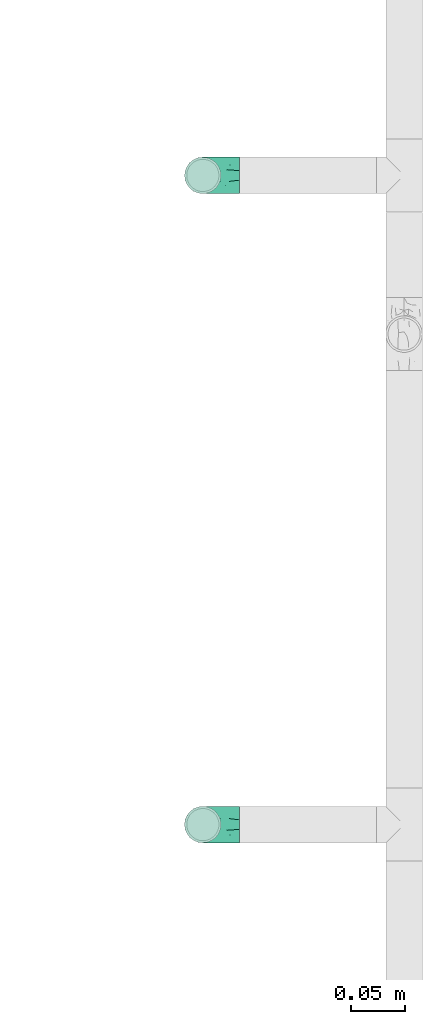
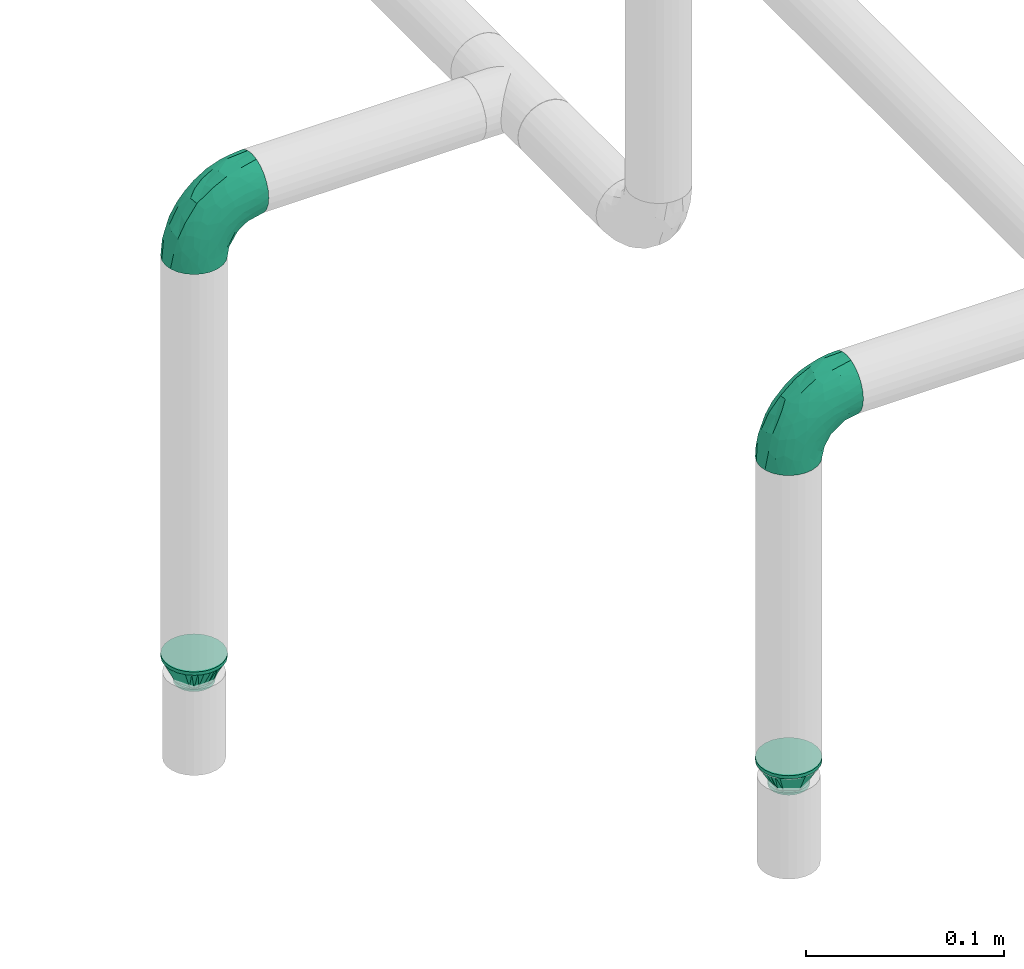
# One storey, part 54 of 157: 4 flow fittings.
"""IFC2X3 building model written with IfcOpenShell, lengths in millimetres."""

from ifc_helpers import new_model, entity, si_unit, converted_unit, derived_unit, direction, frame, origin_with_axes, place, context, subcontext, project, spatial, open_shell, surface_model, source, transform, mapped, type_object, element, save


model = new_model("IFC2X3")

# Units and contexts
model_context = context("Model", 3, precision=0.01, world=frame((0.0, 4.29681676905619e-09, 0.0)), true_north=direction((4.01073788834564e-13, 1.0)))
plan_context = context("Plan", 3, precision=0.01, world=frame((0.0, 4.29681676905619e-09, 0.0)), true_north=direction((4.01073788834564e-13, 1.0)))
body_context = subcontext(model_context, "Body", "Model", "MODEL_VIEW")
ifc_project = project(units=[converted_unit("PLANEANGLEUNIT", "DEGREE", entity("IfcPositiveLengthMeasure", 0.0174532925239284), si_unit("PLANEANGLEUNIT", "RADIAN"), dimensions=[0, 0, 0, 0, 0, 0, 0]), si_unit("AREAUNIT", "SQUARE_METRE"), si_unit("LENGTHUNIT", "METRE", prefix="MILLI"), si_unit("MASSUNIT", "GRAM", prefix="KILO"), si_unit("POWERUNIT", "WATT"), si_unit("PRESSUREUNIT", "PASCAL"), si_unit("FORCEUNIT", "NEWTON", prefix="KILO"), si_unit("ELECTRICCURRENTUNIT", "AMPERE"), si_unit("THERMODYNAMICTEMPERATUREUNIT", "DEGREE_CELSIUS"), si_unit("TIMEUNIT", "SECOND"), si_unit("VOLUMEUNIT", "CUBIC_METRE"), derived_unit("LINEARVELOCITYUNIT", [(si_unit("LENGTHUNIT", "METRE"), 1), (si_unit("TIMEUNIT", "SECOND"), -1)]), derived_unit("VOLUMETRICFLOWRATEUNIT", [(si_unit("VOLUMEUNIT", "CUBIC_METRE"), 1), (si_unit("TIMEUNIT", "SECOND"), -1)]), derived_unit("THERMALTRANSMITTANCEUNIT", [(si_unit("POWERUNIT", "WATT"), 1), (si_unit("THERMODYNAMICTEMPERATUREUNIT", "KELVIN"), -1), (si_unit("AREAUNIT", "SQUARE_METRE"), -1)])], contexts=[model_context, plan_context])

# Site, building, storey
site_placement = place(None, frame((0.0, -4.29681676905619e-09, 0.0), z_axis=(0.0, 0.0, 1.0), x_axis=(1.0, 0.0, 0.0)))
site = spatial("IfcSite", under=ifc_project, at=site_placement, CompositionType="ELEMENT")
building_placement = place(site_placement, frame((0.0, 4.29681676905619e-09, 0.0), z_axis=(0.0, 0.0, 1.0), x_axis=(1.0, 0.0, 0.0)))
building = spatial("IfcBuilding", under=site, at=building_placement, Name="mc-building", CompositionType="ELEMENT")
storey_placement = place(building_placement, frame((0.0, 0.0, 204000.0), z_axis=(0.0, 0.0, 1.0), x_axis=(1.0, 0.0, 0.0)))
storey = spatial("IfcBuildingStorey", under=building, at=storey_placement, Name="Nivå D", CompositionType="ELEMENT", Elevation=204000.0)

# Flow fittings
pipe_fitting_type_1 = type_object("IfcPipeFittingType", Name="magi_pipe_fe_reducer_centric_short_NOR", PredefinedType="TRANSITION")
shared_shape_1 = source(origin_with_axes(), body_context, "Body", "SurfaceModel", [
    surface_model("IfcShellBasedSurfaceModel", [(14.4, 5.35, -9.26647), (14.4, 0.0, -10.7), (14.4, 2.76936, -10.33541), (14.4, 10.33541, -2.76936), (14.4, 7.56604, -7.56604), (14.4, -10.33541, -2.76936), (14.4, 9.26647, -5.35), (14.4, 0.0, 10.7), (14.4, -5.35, -9.26647), (14.4, -2.76936, -10.33541), (14.4, -7.56604, -7.56604), (14.4, -9.26647, -5.35), (14.4, 10.7, 0.0), (14.4, 10.33541, 2.76936), (14.4, 9.26647, 5.35), (14.4, 7.56604, 7.56604), (14.4, 2.76936, 10.33541), (14.4, 5.35, 9.26647), (14.4, -10.33541, 2.76936), (14.4, -7.56604, 7.56604), (14.4, -9.26647, 5.35), (14.4, -10.7, 0.0), (14.4, -2.76936, 10.33541), (14.4, -5.35, 9.26647), (12.4, 2.76936, 10.33541), (12.4, -10.33541, -2.76936), (12.4, 0.0, 10.7), (12.4, 5.35, 9.26647), (12.4, 7.56604, 7.56604), (12.4, 9.26647, 5.35), (12.4, 10.33541, 2.76936), (12.4, -10.33541, 2.76936), (12.4, -2.76936, 10.33541), (12.4, -7.56604, 7.56604), (12.4, -5.35, 9.26647), (12.4, -9.26647, 5.35), (12.4, -10.7, 0.0), (12.4, 10.33541, -2.76936), (12.4, 5.35, -9.26647), (12.4, 9.26647, -5.35), (12.4, 7.56604, -7.56604), (12.4, 2.76936, -10.33541), (12.4, -9.26647, -5.35), (12.4, -5.35, -9.26647), (12.4, -7.56604, -7.56604), (12.4, 0.0, -10.7), (12.4, -2.76936, -10.33541), (12.4, 10.7, 0.0), (-2.0, 11.9501, 11.9501), (-2.0, 0.0, 16.9), (-2.0, 4.37404, 16.32415), (-2.0, 8.45, 14.63583), (-2.0, 14.63583, 8.45), (-2.0, 16.32415, 4.37404), (-2.0, -16.32415, 4.37404), (-2.0, -8.45, 14.63583), (-2.0, -14.63583, 8.45), (-2.0, -11.9501, 11.9501), (-2.0, -4.37404, 16.32415), (-2.0, -16.32415, -4.37404), (-2.0, -16.9, 0.0), (-2.0, -8.45, -14.63583), (-2.0, 16.32415, -4.37404), (-2.0, 11.9501, -11.9501), (-2.0, 14.63583, -8.45), (-2.0, 8.45, -14.63583), (-2.0, 4.37404, -16.32415), (-2.0, 0.0, -16.9), (-2.0, -11.9501, -11.9501), (-2.0, -14.63583, -8.45), (-2.0, -4.37404, -16.32415), (-2.0, 16.9, 0.0), (0.0, 4.37404, -16.32415), (0.0, 8.45, -14.63583), (0.0, 11.9501, -11.9501), (0.0, 0.0, -16.9), (0.0, 16.32415, -4.37404), (0.0, 16.32415, 4.37404), (0.0, 14.63583, -8.45), (0.0, -8.45, -14.63583), (0.0, -4.37404, -16.32415), (0.0, -11.9501, -11.9501), (0.0, -16.32415, -4.37404), (0.0, -14.63583, -8.45), (0.0, -16.32415, 4.37404), (0.0, 16.9, 0.0), (0.0, 14.63583, 8.45), (0.0, 11.9501, 11.9501), (0.0, 4.37404, 16.32415), (0.0, 8.45, 14.63583), (0.0, 0.0, 16.9), (0.0, -14.63583, 8.45), (0.0, -16.9, 0.0), (0.0, -8.45, 14.63583), (0.0, -11.9501, 11.9501), (0.0, -4.37404, 16.32415), (12.4, 9.3625, -2.31662), (0.0, 14.42505, -5.97505), (0.0, 15.66253, -2.98753), (12.4, -6.6875, -6.94985), (0.0, -13.18758, -8.96258), (0.0, 2.98753, -15.66253), (12.4, 0.0, -9.26647), (12.4, 6.6875, -6.94985), (0.0, 8.96258, -13.18758), (12.4, -9.3625, -2.31662), (0.0, -15.66253, -2.98753), (0.0, -14.42505, -5.97505), (0.0, 5.97505, -14.42505), (0.0, -2.98753, -15.66253), (0.0, -8.96258, -13.18758), (0.0, 13.18758, -8.96258), (12.4, 8.025, -4.63324), (12.4, -2.675, -9.26647), (12.4, 2.675, -9.26647), (0.0, -5.97505, -14.42505), (12.4, -8.025, -4.63324), (12.4, -9.3625, 2.31662), (0.0, -14.42505, 5.97505), (0.0, -15.66253, 2.98753), (12.4, 6.6875, 6.94985), (0.0, 13.18758, 8.96258), (0.0, -2.98753, 15.66253), (12.4, 0.0, 9.26647), (12.4, -6.6875, 6.94985), (0.0, -8.96258, 13.18758), (12.4, 9.3625, 2.31662), (0.0, 15.66253, 2.98753), (0.0, 14.42505, 5.97505), (0.0, -5.97505, 14.42505), (0.0, 2.98753, 15.66253), (0.0, 8.96258, 13.18758), (0.0, -13.18758, 8.96258), (12.4, -8.025, 4.63324), (12.4, 2.675, 9.26647), (12.4, -2.675, 9.26647), (0.0, 5.97505, 14.42505), (12.4, 8.025, 4.63324)], [open_shell([[[0, 1, 2]], [[3, 0, 4]], [[5, 0, 3]], [[3, 4, 6]], [[7, 5, 3]], [[1, 8, 9]], [[1, 0, 8]], [[10, 5, 11]], [[5, 10, 8]], [[0, 5, 8]], [[3, 12, 13]], [[13, 14, 15]], [[13, 15, 16]], [[7, 3, 16]], [[16, 15, 17]], [[7, 18, 5]], [[18, 19, 20]], [[21, 5, 18]], [[19, 22, 23]], [[22, 19, 18]], [[7, 22, 18]], [[13, 16, 3]], [[24, 25, 26]], [[27, 25, 24]], [[28, 29, 30]], [[28, 25, 27]], [[31, 26, 25]], [[32, 33, 34]], [[33, 32, 31]], [[33, 31, 35]], [[32, 26, 31]], [[31, 25, 36]], [[30, 37, 28]], [[25, 28, 37]], [[38, 37, 39]], [[37, 38, 25]], [[38, 39, 40]], [[41, 25, 38]], [[42, 43, 44]], [[43, 42, 25]], [[43, 45, 46]], [[43, 25, 41]], [[41, 45, 43]], [[37, 30, 47]], [[25, 5, 36]], [[42, 11, 25]], [[8, 44, 43]], [[42, 44, 10]], [[9, 43, 46]], [[25, 11, 5]], [[5, 21, 36]], [[9, 8, 43]], [[10, 44, 8]], [[10, 11, 42]], [[1, 9, 46]], [[46, 45, 1]], [[41, 2, 45]], [[38, 0, 41]], [[6, 40, 39]], [[38, 40, 4]], [[3, 39, 37]], [[38, 4, 0]], [[0, 2, 41]], [[12, 3, 37]], [[6, 39, 3]], [[6, 4, 40]], [[47, 12, 37]], [[45, 2, 1]], [[30, 13, 47]], [[29, 14, 30]], [[17, 28, 27]], [[29, 28, 15]], [[16, 27, 24]], [[30, 14, 13]], [[13, 12, 47]], [[16, 17, 27]], [[15, 28, 17]], [[15, 14, 29]], [[7, 16, 24]], [[24, 26, 7]], [[32, 22, 26]], [[34, 23, 32]], [[20, 33, 35]], [[34, 33, 19]], [[18, 35, 31]], [[34, 19, 23]], [[23, 22, 32]], [[21, 18, 31]], [[20, 35, 18]], [[20, 19, 33]], [[36, 21, 31]], [[26, 22, 7]], [[48, 49, 50]], [[48, 50, 51]], [[48, 52, 53]], [[48, 53, 49]], [[49, 53, 54]], [[55, 56, 57]], [[55, 58, 49]], [[56, 55, 49]], [[49, 54, 56]], [[54, 59, 60]], [[54, 53, 61]], [[53, 62, 63]], [[63, 62, 64]], [[63, 65, 66]], [[61, 53, 63]], [[67, 63, 66]], [[59, 68, 69]], [[68, 59, 61]], [[61, 67, 70]], [[59, 54, 61]], [[63, 67, 61]], [[53, 71, 62]], [[72, 73, 74]], [[75, 72, 74]], [[74, 76, 77]], [[76, 74, 78]], [[74, 77, 79]], [[75, 79, 80]], [[75, 74, 79]], [[81, 82, 83]], [[82, 81, 79]], [[79, 84, 82]], [[77, 76, 85]], [[77, 86, 87]], [[77, 87, 88]], [[88, 84, 79]], [[88, 87, 89]], [[84, 88, 90]], [[90, 91, 84]], [[92, 82, 84]], [[91, 93, 94]], [[91, 90, 93]], [[93, 90, 95]], [[79, 77, 88]], [[59, 82, 60]], [[69, 83, 59]], [[79, 68, 61]], [[69, 68, 81]], [[80, 61, 70]], [[59, 83, 82]], [[82, 92, 60]], [[80, 79, 61]], [[81, 68, 79]], [[81, 83, 69]], [[75, 80, 70]], [[70, 67, 75]], [[66, 72, 67]], [[65, 73, 66]], [[78, 63, 64]], [[65, 63, 74]], [[76, 64, 62]], [[65, 74, 73]], [[73, 72, 66]], [[85, 76, 62]], [[78, 64, 76]], [[78, 74, 63]], [[71, 85, 62]], [[67, 72, 75]], [[53, 77, 71]], [[52, 86, 53]], [[89, 48, 51]], [[52, 48, 87]], [[88, 51, 50]], [[53, 86, 77]], [[77, 85, 71]], [[88, 89, 51]], [[87, 48, 89]], [[87, 86, 52]], [[90, 88, 50]], [[50, 49, 90]], [[58, 95, 49]], [[55, 93, 58]], [[91, 57, 56]], [[55, 57, 94]], [[84, 56, 54]], [[55, 94, 93]], [[93, 95, 58]], [[92, 84, 54]], [[91, 56, 84]], [[91, 94, 57]], [[60, 92, 54]], [[49, 95, 90]], [[27, 34, 47]], [[47, 34, 43]], [[43, 38, 47]], [[43, 34, 36]], [[90, 87, 94]], [[92, 94, 87]], [[87, 74, 92]], [[75, 92, 74]], [[81, 92, 75]], [[74, 87, 85]], [[96, 97, 98]], [[81, 99, 100]], [[101, 102, 75]], [[98, 85, 47]], [[74, 103, 104]], [[104, 103, 38]], [[105, 106, 107]], [[38, 108, 104]], [[102, 109, 75]], [[110, 99, 81]], [[47, 96, 98]], [[103, 111, 112]], [[109, 102, 113]], [[36, 92, 106]], [[102, 101, 114]], [[110, 115, 43]], [[96, 112, 97]], [[107, 116, 105]], [[36, 106, 105]], [[113, 115, 109]], [[43, 115, 113]], [[116, 107, 100]], [[108, 38, 114]], [[111, 103, 74]], [[111, 97, 112]], [[99, 110, 43]], [[116, 100, 99]], [[101, 108, 114]], [[117, 118, 119]], [[87, 120, 121]], [[122, 123, 90]], [[119, 92, 36]], [[94, 124, 125]], [[125, 124, 34]], [[126, 127, 128]], [[34, 129, 125]], [[123, 130, 90]], [[131, 120, 87]], [[36, 117, 119]], [[124, 132, 133]], [[130, 123, 134]], [[47, 85, 127]], [[123, 122, 135]], [[131, 136, 27]], [[117, 133, 118]], [[128, 137, 126]], [[47, 127, 126]], [[134, 136, 130]], [[27, 136, 134]], [[137, 128, 121]], [[129, 34, 135]], [[132, 124, 94]], [[132, 118, 133]], [[120, 131, 27]], [[137, 121, 120]], [[122, 129, 135]]])]),
])
flow_fitting_1_placement = place(storey_placement, frame((518500.0, 413000.0, 2709.35200000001), z_axis=(1.0, 0.0, 0.0), x_axis=(0.0, 0.0, -1.0)))
element("IfcFlowFitting", 1, at=flow_fitting_1_placement, inside=storey, type_object=pipe_fitting_type_1, Name="magi_pipe_fe_reducer_centric_short_NOR", context=body_context, shape_type="MappedRepresentation", body=[
    mapped(shared_shape_1, transform((0.0, 0.0, 0.0), scale=1.0)),
])
pipe_fitting_type_2 = type_object("IfcPipeFittingType", Name="magi_pipe_fe_elbow_short_001", PredefinedType="BEND")
shared_shape_2 = source(origin_with_axes(), body_context, "Body", "SurfaceModel", [
    surface_model("IfcShellBasedSurfaceModel", [(-33.8, 8.45, -14.63583), (-33.8, 4.37404, -16.32415), (-33.8, 11.9501, -11.9501), (-33.8, -11.9501, -11.9501), (-33.8, -14.63583, -8.45), (-33.8, -8.45, -14.63583), (-33.8, 0.0, -16.9), (-33.8, -4.37404, -16.32415), (-33.8, -4.37404, 16.32415), (-33.8, 0.0, 16.9), (-33.8, -8.45, 14.63583), (-33.8, 16.32415, -4.37404), (-33.8, 14.63583, -8.45), (-33.8, -16.32415, -4.37404), (-33.8, -16.9, 0.0), (-33.8, -16.32415, 4.37404), (-33.8, 11.9501, 11.9501), (-33.8, 14.63583, 8.45), (-33.8, 16.32415, 4.37404), (-33.8, 4.37404, 16.32415), (-33.8, 8.45, 14.63583), (-33.8, -14.63583, 8.45), (-33.8, -11.9501, 11.9501), (-33.8, 16.9, 0.0), (-11.9501, 33.8, -11.9501), (0.0, 33.8, -16.9), (-4.37404, 33.8, -16.32415), (-8.45, 33.8, -14.63583), (-14.63583, 33.8, -8.45), (-16.32415, 33.8, -4.37404), (14.63583, 33.8, -8.45), (8.45, 33.8, 14.63583), (16.32415, 33.8, -4.37404), (8.45, 33.8, -14.63583), (11.9501, 33.8, -11.9501), (4.37404, 33.8, -16.32415), (16.32415, 33.8, 4.37404), (16.9, 33.8, 0.0), (-11.9501, 33.8, 11.9501), (-16.32415, 33.8, 4.37404), (-14.63583, 33.8, 8.45), (-8.45, 33.8, 14.63583), (-4.37404, 33.8, 16.32415), (11.9501, 33.8, 11.9501), (14.63583, 33.8, 8.45), (0.0, 33.8, 16.9), (4.37404, 33.8, 16.32415), (-16.9, 33.8, 0.0), (-24.79389, -13.12945, 9.48721), (-22.19287, -9.75018, 12.59315), (-24.09897, -14.97035, 0.0), (-14.93934, -10.76256, 8.5297), (-22.46095, -14.75051, 5.27077), (14.75051, 22.46094, 5.27077), (11.9251, 13.23888, 4.33236), (13.04069, 14.39795, 0.0), (7.71387, 13.68847, 11.55891), (9.75018, 22.19287, 12.59315), (4.10169, 13.0571, 14.04018), (-24.84007, -6.39063, 15.2048), (-25.81779, -2.23879, 16.61097), (-23.66549, 2.59054, 16.87119), (-26.50418, 14.06512, 11.08152), (-24.21253, 17.66365, 7.72657), (-29.58514, 15.86957, 7.00283), (-6.17382, -7.5455, 0.0), (-13.23888, -11.9251, 4.33236), (-14.39795, -13.04069, 0.0), (-17.81434, 18.87373, 11.97104), (-6.30846, 29.15138, 15.82987), (-2.31622, 25.28002, 16.85849), (-29.23923, 10.23435, 13.77053), (-1.45439, -2.85688, 7.61475), (-0.28326, 0.34872, 10.09509), (-5.74484, -4.04709, 10.4122), (-4.41137, 11.31918, 16.59407), (-8.39727, 3.10034, 15.7812), (-1.72649, 9.1306, 15.53089), (-17.39909, 24.75344, 7.64977), (-26.19233, 20.0512, 0.0), (-28.14518, 17.29657, 4.25857), (-26.05147, 6.6281, 15.96447), (-5.87354, 16.61944, 16.86968), (-12.51807, 12.51807, 16.48937), (-10.06312, 7.38516, 16.81295), (-3.01882, 3.01882, 13.81718), (-13.0571, -4.10169, 14.04018), (-16.82553, -0.15166, 16.38038), (10.76256, 14.93934, 8.5297), (13.12945, 24.79389, 9.48721), (6.39063, 24.84007, 15.2048), (2.23879, 25.81779, 16.61097), (-13.68847, -7.71387, 11.55891), (14.97035, 24.09897, 0.0), (-7.30894, 22.89991, 16.09489), (-10.67958, 26.17414, 14.008), (-12.78295, 18.26924, 15.06066), (-13.88562, 22.45231, 12.93244), (-18.04944, 15.16501, 14.04434), (-23.11658, 20.08178, 4.02986), (-21.84989, 21.84989, 0.0), (-18.55817, 25.48277, 3.93065), (-13.95142, 26.94732, 11.03289), (-18.57098, 7.23906, 16.59756), (-16.58335, 4.14122, 16.89279), (-17.96666, 11.46709, 15.63151), (-9.84453, 17.54304, 16.18938), (0.15166, 16.82553, 16.38038), (-23.27207, 11.47201, 14.23154), (3.84842, 5.86994, 10.70473), (-8.0212, -7.54413, 7.93275), (1.00345, -2.19508, 4.57414), (5.13203, 3.01004, 5.90201), (5.24161, 1.7543, 2.53265), (8.70457, 7.04947, 3.99182), (-20.0512, 26.19233, 0.0), (8.4852, 8.76699, 7.09296), (-4.55488, -6.72064, 4.90681), (2.05031, -2.05031, 0.0), (7.5455, 6.17382, 0.0), (-26.75399, 2.1369, -16.845), (-14.61995, 24.73803, -11.27736), (-28.45274, -13.45335, -9.81895), (-26.00469, 6.63555, -15.96645), (-23.06726, 20.04573, -4.26202), (-13.80647, -4.26506, -14.17873), (-14.67501, -0.21081, -16.07388), (-6.7902, -0.2828, -13.8478), (-24.53586, 11.08096, -14.13417), (-26.72048, 14.00837, -11.05776), (10.0967, 24.44989, -12.75976), (5.83237, 21.40218, -15.03047), (6.66249, 28.54238, -15.38093), (-20.38182, 15.48705, -12.74596), (12.53268, 21.23441, -9.15363), (12.54494, 15.67504, -5.54878), (9.7522, 12.89279, -8.66343), (-15.65186, 19.64213, -13.01327), (-12.03528, 20.66498, -14.67665), (-15.61907, 15.61906, -14.83879), (-25.56551, -15.26206, 0.0), (-24.65452, -15.12934, -5.50955), (13.45335, 28.45274, -9.81895), (15.12934, 24.65452, -5.50955), (-7.35442, -8.31014, -5.65563), (-15.67504, -12.54494, -5.54878), (-24.44989, -10.0967, -12.75976), (0.16522, 0.41303, -9.71728), (-5.70658, -5.33066, -8.89288), (-5.13869, -2.37198, -11.53565), (-21.23441, -12.53268, -9.15363), (0.71146, 7.93863, -14.09382), (0.21081, 14.67501, -16.07388), (3.49291, 14.42772, -14.76381), (-24.89911, -2.13088, -16.591), (-28.54238, -6.66249, -15.38093), (-18.44386, -7.71663, -13.26957), (2.13088, 24.89911, -16.591), (-28.64342, 17.44413, -2.89318), (1.70017, -1.28722, -5.09504), (-16.57067, 26.81947, -7.36596), (-17.69055, 27.4263, -3.76405), (-12.89279, -9.7522, -8.66343), (-5.96611, 5.96611, -15.95814), (-20.53709, 20.09345, -8.28985), (-2.1369, 26.75399, -16.845), (-6.89872, 24.58781, -16.02578), (-10.60739, 26.53157, -13.98044), (-21.40218, -5.83237, -15.03047), (2.93192, 5.89627, -11.55917), (6.89393, 12.61842, -11.82233), (5.58056, 5.95325, -8.79455), (-3.99512, 18.61798, -16.89635), (8.31014, 7.35442, -5.65563), (-9.1383, 9.86148, -16.89041), (-9.99983, 16.02119, -16.39699), (-16.68576, 9.78031, -16.34199), (-27.01915, 16.61158, -7.12979), (15.26206, 25.56551, 0.0), (-18.61798, 3.99512, -16.89635), (-19.37495, 27.82495, 0.0), (-12.61842, -6.89393, -11.82233), (-18.84705, 19.14018, -10.96545)], [open_shell([[[0, 1, 2]], [[3, 4, 5]], [[6, 7, 5]], [[8, 9, 10]], [[1, 6, 2]], [[11, 12, 2]], [[4, 2, 6]], [[2, 13, 10]], [[5, 4, 6]], [[2, 4, 13]], [[14, 15, 13]], [[11, 2, 16]], [[11, 17, 18]], [[11, 16, 17]], [[19, 20, 16]], [[16, 2, 10]], [[19, 16, 10]], [[21, 22, 15]], [[22, 13, 15]], [[22, 10, 13]], [[10, 9, 19]], [[11, 18, 23]], [[24, 25, 26]], [[24, 26, 27]], [[24, 28, 29]], [[25, 24, 30]], [[31, 32, 24]], [[33, 30, 34]], [[33, 35, 25]], [[25, 30, 33]], [[32, 30, 24]], [[32, 36, 37]], [[38, 24, 29]], [[39, 40, 29]], [[40, 38, 29]], [[38, 41, 42]], [[38, 31, 24]], [[31, 38, 42]], [[36, 43, 44]], [[36, 32, 43]], [[31, 45, 46]], [[32, 31, 43]], [[42, 45, 31]], [[39, 29, 47]], [[22, 48, 49]], [[15, 14, 50]], [[51, 48, 52]], [[53, 54, 55]], [[48, 22, 21]], [[15, 52, 21]], [[56, 57, 58]], [[49, 10, 22]], [[49, 59, 10]], [[9, 60, 61]], [[62, 63, 64]], [[65, 66, 67]], [[57, 43, 31]], [[62, 68, 63]], [[42, 69, 70]], [[20, 71, 16]], [[8, 60, 9]], [[72, 73, 74]], [[75, 76, 77]], [[16, 62, 17]], [[40, 39, 78]], [[79, 23, 80]], [[64, 18, 17]], [[9, 61, 19]], [[19, 81, 20]], [[82, 83, 84]], [[74, 85, 86]], [[59, 86, 87]], [[88, 89, 57]], [[90, 31, 46]], [[44, 53, 36]], [[46, 45, 91]], [[54, 53, 88]], [[44, 89, 53]], [[92, 86, 49]], [[89, 44, 43]], [[10, 59, 8]], [[53, 55, 93]], [[93, 36, 53]], [[66, 52, 67]], [[94, 82, 70]], [[95, 96, 94]], [[97, 98, 96]], [[79, 99, 100]], [[41, 38, 95]], [[101, 100, 99]], [[68, 78, 63]], [[42, 41, 69]], [[23, 18, 80]], [[95, 94, 69]], [[78, 101, 99]], [[38, 102, 95]], [[70, 45, 42]], [[97, 95, 102]], [[15, 50, 52]], [[90, 57, 31]], [[57, 90, 58]], [[81, 19, 61]], [[103, 104, 84]], [[105, 81, 103]], [[38, 40, 102]], [[106, 96, 83]], [[94, 106, 82]], [[91, 70, 107]], [[71, 62, 16]], [[62, 108, 98]], [[86, 59, 49]], [[67, 52, 50]], [[60, 59, 87]], [[92, 49, 51]], [[86, 85, 76]], [[91, 90, 46]], [[37, 36, 93]], [[107, 77, 58]], [[107, 58, 90]], [[58, 85, 109]], [[110, 74, 92]], [[72, 74, 110]], [[66, 51, 52]], [[72, 111, 112]], [[113, 114, 112]], [[56, 88, 57]], [[52, 48, 21]], [[49, 48, 51]], [[57, 89, 43]], [[53, 89, 88]], [[103, 81, 61]], [[71, 81, 108]], [[18, 64, 80]], [[63, 78, 99]], [[47, 115, 101]], [[101, 115, 100]], [[40, 78, 102]], [[68, 102, 78]], [[97, 96, 95]], [[105, 98, 108]], [[103, 84, 83]], [[107, 70, 82]], [[76, 84, 87]], [[82, 84, 75]], [[70, 91, 45]], [[90, 91, 107]], [[59, 60, 8]], [[61, 60, 87]], [[73, 85, 74]], [[109, 112, 116]], [[103, 61, 104]], [[105, 103, 83]], [[96, 105, 83]], [[81, 105, 108]], [[96, 98, 105]], [[62, 98, 68]], [[61, 87, 104]], [[87, 84, 104]], [[86, 76, 87]], [[77, 76, 85]], [[58, 77, 85]], [[75, 77, 107]], [[82, 75, 107]], [[76, 75, 84]], [[81, 71, 20]], [[62, 71, 108]], [[95, 69, 41]], [[70, 69, 94]], [[62, 64, 17]], [[80, 63, 99]], [[63, 80, 64]], [[80, 99, 79]], [[66, 65, 117]], [[110, 66, 117]], [[112, 114, 116]], [[118, 117, 65]], [[110, 92, 51]], [[112, 111, 113]], [[119, 55, 54]], [[74, 86, 92]], [[58, 109, 56]], [[116, 56, 109]], [[66, 110, 51]], [[72, 110, 117]], [[111, 72, 117]], [[73, 112, 109]], [[117, 118, 111]], [[113, 111, 118]], [[118, 119, 113]], [[114, 119, 54]], [[119, 114, 113]], [[116, 54, 88]], [[54, 116, 114]], [[116, 88, 56]], [[112, 73, 72]], [[85, 73, 109]], [[78, 39, 101]], [[47, 101, 39]], [[102, 68, 97]], [[97, 68, 98]], [[82, 106, 83]], [[94, 96, 106]], [[1, 120, 6]], [[28, 24, 121]], [[3, 122, 4]], [[0, 123, 1]], [[100, 124, 79]], [[125, 126, 127]], [[128, 2, 129]], [[130, 131, 132]], [[128, 129, 133]], [[134, 135, 136]], [[137, 138, 139]], [[128, 0, 2]], [[67, 140, 141]], [[134, 142, 143]], [[141, 13, 4]], [[144, 65, 145]], [[146, 3, 5]], [[147, 148, 149]], [[145, 141, 150]], [[151, 152, 153]], [[154, 7, 6]], [[5, 155, 146]], [[150, 146, 156]], [[155, 5, 7]], [[143, 135, 134]], [[35, 157, 25]], [[23, 79, 158]], [[148, 159, 144]], [[160, 161, 29]], [[145, 162, 144]], [[163, 152, 151]], [[29, 28, 160]], [[121, 164, 160]], [[33, 34, 130]], [[25, 165, 26]], [[26, 165, 166]], [[142, 34, 30]], [[24, 27, 167]], [[124, 161, 164]], [[157, 35, 132]], [[155, 154, 168]], [[123, 0, 128]], [[169, 170, 171]], [[172, 157, 152]], [[26, 166, 27]], [[132, 35, 33]], [[142, 130, 34]], [[168, 154, 126]], [[136, 135, 173]], [[133, 137, 139]], [[2, 12, 129]], [[170, 131, 130]], [[30, 32, 143]], [[172, 174, 175]], [[176, 123, 128]], [[158, 177, 11]], [[135, 55, 119]], [[167, 27, 166]], [[175, 166, 172]], [[137, 167, 138]], [[122, 141, 4]], [[140, 14, 13]], [[32, 37, 178]], [[170, 130, 134]], [[152, 157, 131]], [[165, 157, 172]], [[153, 170, 151]], [[152, 163, 174]], [[168, 125, 156]], [[122, 146, 150]], [[120, 154, 6]], [[179, 174, 126]], [[179, 126, 154]], [[126, 163, 127]], [[162, 145, 150]], [[140, 13, 141]], [[32, 178, 143]], [[55, 143, 178]], [[177, 129, 12]], [[128, 133, 139]], [[176, 128, 139]], [[120, 123, 179]], [[121, 160, 28]], [[161, 100, 180]], [[166, 175, 138]], [[121, 24, 167]], [[161, 47, 29]], [[79, 124, 158]], [[124, 164, 177]], [[161, 124, 100]], [[136, 171, 170]], [[127, 163, 151]], [[147, 171, 159]], [[148, 144, 162]], [[127, 151, 169]], [[127, 181, 125]], [[129, 177, 164]], [[12, 11, 177]], [[159, 65, 144]], [[67, 141, 145]], [[143, 55, 135]], [[135, 119, 173]], [[123, 120, 1]], [[154, 120, 179]], [[157, 165, 25]], [[166, 165, 172]], [[172, 152, 174]], [[176, 139, 175]], [[126, 174, 163]], [[176, 174, 179]], [[174, 176, 175]], [[123, 176, 179]], [[150, 181, 162]], [[127, 149, 181]], [[181, 148, 162]], [[159, 148, 147]], [[171, 136, 173]], [[170, 134, 136]], [[159, 171, 173]], [[171, 147, 169]], [[169, 147, 149]], [[151, 170, 169]], [[164, 182, 129]], [[182, 121, 137]], [[181, 149, 148]], [[169, 149, 127]], [[182, 137, 133]], [[167, 137, 121]], [[166, 138, 167]], [[175, 139, 138]], [[129, 182, 133]], [[121, 182, 164]], [[161, 160, 164]], [[47, 161, 180]], [[177, 158, 124]], [[23, 158, 11]], [[130, 132, 33]], [[157, 132, 131]], [[143, 142, 30]], [[130, 142, 134]], [[154, 155, 7]], [[146, 155, 168]], [[146, 122, 3]], [[141, 122, 150]], [[152, 131, 153]], [[159, 119, 118]], [[67, 145, 65]], [[170, 153, 131]], [[119, 159, 173]], [[159, 118, 65]], [[156, 125, 181]], [[126, 125, 168]], [[150, 156, 181]], [[168, 156, 146]]])]),
])
for number, where, z_axis, x_axis, name in (
    (2, (518500.0, 413000.0, 2930.0), (0.0, -1.0, 0.0), (-1.0, 0.0, 0.0), "magi_pipe_fe_elbow_short_001"),
    (3, (518500.0, 413600.0, 2690.0), (0.0, 1.0, 0.0), (0.0, 0.0, 1.0), "magi_pipe_fe_elbow_short_001"),
):
    element("IfcFlowFitting", number, at=place(storey_placement, frame(where, z_axis=z_axis, x_axis=x_axis)), inside=storey, type_object=pipe_fitting_type_2, Name=name, context=body_context, shape_type="MappedRepresentation", body=[
        mapped(shared_shape_2, transform((0.0, 0.0, 0.0), scale=1.0)),
    ])
shared_shape_3 = source(origin_with_axes(), body_context, "Body", "SurfaceModel", [
    surface_model("IfcShellBasedSurfaceModel", [(-2.0, -7.56604, -7.56604), (-2.0, -10.33541, -2.76936), (-2.0, -5.35, -9.26647), (-2.0, 5.35, -9.26647), (-2.0, 10.33541, -2.76936), (-2.0, 7.56604, -7.56604), (12.4, 11.9501, 11.9501), (12.4, 0.0, 16.9), (12.4, 11.9501, -11.9501), (12.4, 16.9, 0.0), (0.0, -10.7, 0.0), (0.0, -5.35, 9.26647), (0.0, -5.35, -9.26647), (0.0, 10.7, 0.0), (12.4, 15.66253, -2.98753), (12.4, 8.96258, -13.18758), (0.0, 6.6875, -6.94985), (12.4, -15.66253, -2.98753), (12.4, -16.9, 0.0), (12.4, 5.97505, -14.42505), (0.0, 5.35, -9.26647), (12.4, 14.42505, -5.97505), (0.0, 8.025, -4.63324), (0.0, 9.3625, -2.31662), (0.0, -9.3625, -2.31662), (0.0, -8.025, -4.63324), (12.4, -14.42505, -5.97505), (12.4, 13.18758, -8.96258), (12.4, -13.18758, -8.96258), (12.4, -11.9501, -11.9501), (0.0, -6.6875, -6.94985), (12.4, -8.96258, -13.18758), (12.4, -5.97505, -14.42505), (12.4, -15.66253, 2.98753), (12.4, -8.96258, 13.18758), (0.0, -6.6875, 6.94985), (12.4, -11.9501, 11.9501), (12.4, 15.66253, 2.98753), (12.4, -5.97505, 14.42505), (12.4, -14.42505, 5.97505), (0.0, -8.025, 4.63324), (0.0, -9.3625, 2.31662), (0.0, 9.3625, 2.31662), (0.0, 8.025, 4.63324), (12.4, 14.42505, 5.97505), (12.4, -13.18758, 8.96258), (12.4, 13.18758, 8.96258), (0.0, 6.6875, 6.94985), (12.4, 8.96258, 13.18758), (0.0, 5.35, 9.26647), (12.4, 5.97505, 14.42505), (14.4, 4.37404, -16.32415), (14.4, 8.45, -14.63583), (14.4, 11.9501, -11.9501), (14.4, -8.45, -14.63583), (14.4, 16.32415, -4.37404), (14.4, 16.32415, 4.37404), (14.4, 14.63583, -8.45), (14.4, 0.0, -16.9), (14.4, -4.37404, -16.32415), (14.4, -11.9501, -11.9501), (14.4, -16.32415, -4.37404), (14.4, -14.63583, -8.45), (14.4, -16.32415, 4.37404), (14.4, 16.9, 0.0), (14.4, 14.63583, 8.45), (14.4, 11.9501, 11.9501), (14.4, 4.37404, 16.32415), (14.4, 8.45, 14.63583), (14.4, 0.0, 16.9), (14.4, -14.63583, 8.45), (14.4, -16.9, 0.0), (14.4, -8.45, 14.63583), (14.4, -11.9501, 11.9501), (14.4, -4.37404, 16.32415), (12.4, 4.37404, 16.32415), (12.4, -14.63583, 8.45), (12.4, 16.32415, 4.37404), (12.4, 8.45, 14.63583), (12.4, 14.63583, 8.45), (12.4, -8.45, 14.63583), (12.4, -4.37404, 16.32415), (12.4, -16.32415, 4.37404), (12.4, -16.32415, -4.37404), (12.4, -8.45, -14.63583), (12.4, 16.32415, -4.37404), (12.4, 14.63583, -8.45), (12.4, 8.45, -14.63583), (12.4, 4.37404, -16.32415), (12.4, 0.0, -16.9), (12.4, -14.63583, -8.45), (12.4, -4.37404, -16.32415), (-2.0, 2.76936, 10.33541), (-2.0, 0.0, 10.7), (-2.0, 5.35, 9.26647), (-2.0, 7.56604, 7.56604), (-2.0, 9.26647, 5.35), (-2.0, 10.33541, 2.76936), (-2.0, -10.33541, 2.76936), (-2.0, -2.76936, 10.33541), (-2.0, -7.56604, 7.56604), (-2.0, -5.35, 9.26647), (-2.0, -9.26647, 5.35), (-2.0, -10.7, 0.0), (-2.0, 9.26647, -5.35), (-2.0, 2.76936, -10.33541), (-2.0, -9.26647, -5.35), (-2.0, 0.0, -10.7), (-2.0, -2.76936, -10.33541), (-2.0, 10.7, 0.0), (0.0, 0.0, -10.7), (0.0, 2.76936, -10.33541), (0.0, 10.33541, -2.76936), (0.0, 7.56604, -7.56604), (0.0, -10.33541, -2.76936), (0.0, 9.26647, -5.35), (0.0, 0.0, 10.7), (0.0, -2.76936, -10.33541), (0.0, -7.56604, -7.56604), (0.0, -9.26647, -5.35), (0.0, 10.33541, 2.76936), (0.0, 9.26647, 5.35), (0.0, 7.56604, 7.56604), (0.0, 2.76936, 10.33541), (0.0, -7.56604, 7.56604), (0.0, -10.33541, 2.76936), (0.0, -9.26647, 5.35), (0.0, -2.76936, 10.33541), (0.0, 2.675, -9.26647), (0.0, -2.675, -9.26647), (12.4, 2.98753, -15.66253), (0.0, 0.0, -9.26647), (12.4, -2.98753, -15.66253), (0.0, -2.675, 9.26647), (0.0, 2.675, 9.26647), (12.4, -2.98753, 15.66253), (0.0, 0.0, 9.26647), (12.4, 2.98753, 15.66253)], [open_shell([[[0, 1, 2]], [[3, 4, 5]], [[6, 7, 8]], [[8, 9, 6]], [[10, 11, 12]], [[13, 9, 14]], [[15, 16, 8]], [[17, 18, 10]], [[15, 19, 20]], [[21, 22, 23]], [[24, 25, 26]], [[22, 21, 27]], [[28, 26, 25]], [[29, 30, 31]], [[12, 32, 31]], [[10, 18, 33]], [[34, 35, 36]], [[37, 9, 13]], [[34, 38, 11]], [[39, 40, 41]], [[42, 43, 44]], [[40, 39, 45]], [[46, 44, 43]], [[6, 47, 48]], [[49, 50, 48]], [[51, 52, 53]], [[54, 51, 53]], [[53, 55, 56]], [[55, 53, 57]], [[53, 56, 54]], [[58, 54, 59]], [[58, 51, 54]], [[60, 61, 62]], [[61, 60, 54]], [[54, 63, 61]], [[56, 55, 64]], [[56, 65, 66]], [[56, 66, 67]], [[67, 63, 54]], [[67, 66, 68]], [[63, 67, 69]], [[69, 70, 63]], [[71, 61, 63]], [[70, 72, 73]], [[70, 69, 72]], [[72, 69, 74]], [[54, 56, 67]], [[75, 76, 7]], [[77, 75, 78]], [[6, 79, 77]], [[6, 77, 78]], [[76, 75, 77]], [[80, 76, 36]], [[80, 81, 7]], [[7, 76, 80]], [[82, 76, 77]], [[82, 83, 18]], [[82, 77, 84]], [[77, 85, 8]], [[8, 85, 86]], [[8, 87, 88]], [[84, 77, 8]], [[88, 89, 8]], [[83, 29, 90]], [[29, 83, 84]], [[84, 89, 91]], [[83, 82, 84]], [[8, 89, 84]], [[85, 77, 9]], [[83, 61, 18]], [[90, 62, 83]], [[54, 29, 84]], [[90, 29, 60]], [[59, 84, 91]], [[83, 62, 61]], [[61, 71, 18]], [[59, 54, 84]], [[60, 29, 54]], [[60, 62, 90]], [[58, 59, 91]], [[91, 89, 58]], [[88, 51, 89]], [[87, 52, 88]], [[57, 8, 86]], [[87, 8, 53]], [[55, 86, 85]], [[87, 53, 52]], [[52, 51, 88]], [[64, 55, 85]], [[57, 86, 55]], [[57, 53, 8]], [[9, 64, 85]], [[89, 51, 58]], [[77, 56, 9]], [[79, 65, 77]], [[68, 6, 78]], [[79, 6, 66]], [[67, 78, 75]], [[77, 65, 56]], [[56, 64, 9]], [[67, 68, 78]], [[66, 6, 68]], [[66, 65, 79]], [[69, 67, 75]], [[75, 7, 69]], [[81, 74, 7]], [[80, 72, 81]], [[70, 36, 76]], [[80, 36, 73]], [[63, 76, 82]], [[80, 73, 72]], [[72, 74, 81]], [[71, 63, 82]], [[70, 76, 63]], [[70, 73, 36]], [[18, 71, 82]], [[7, 74, 69]], [[92, 1, 93]], [[94, 1, 92]], [[95, 96, 97]], [[95, 97, 94]], [[98, 93, 1]], [[99, 100, 101]], [[99, 93, 100]], [[100, 98, 102]], [[93, 98, 100]], [[98, 1, 103]], [[94, 97, 1]], [[1, 97, 4]], [[5, 4, 104]], [[4, 3, 1]], [[105, 1, 3]], [[1, 0, 106]], [[2, 107, 108]], [[2, 1, 105]], [[105, 107, 2]], [[4, 97, 109]], [[20, 110, 111]], [[112, 20, 113]], [[114, 20, 112]], [[112, 113, 115]], [[116, 114, 112]], [[110, 12, 117]], [[110, 20, 12]], [[118, 114, 119]], [[114, 118, 12]], [[20, 114, 12]], [[112, 13, 120]], [[120, 121, 122]], [[120, 122, 123]], [[116, 112, 123]], [[123, 122, 49]], [[116, 124, 114]], [[125, 124, 126]], [[10, 114, 125]], [[124, 127, 11]], [[125, 114, 124]], [[127, 124, 116]], [[123, 112, 120]], [[1, 114, 103]], [[106, 119, 1]], [[12, 0, 2]], [[106, 0, 118]], [[117, 2, 108]], [[1, 119, 114]], [[114, 10, 103]], [[117, 12, 2]], [[118, 0, 12]], [[118, 119, 106]], [[110, 117, 108]], [[108, 107, 110]], [[105, 111, 107]], [[3, 20, 105]], [[115, 5, 104]], [[3, 5, 113]], [[112, 104, 4]], [[3, 113, 20]], [[20, 111, 105]], [[13, 112, 4]], [[115, 104, 112]], [[115, 113, 5]], [[109, 13, 4]], [[107, 111, 110]], [[97, 120, 109]], [[96, 121, 97]], [[49, 95, 94]], [[96, 95, 122]], [[123, 94, 92]], [[97, 121, 120]], [[120, 13, 109]], [[123, 49, 94]], [[122, 95, 49]], [[122, 121, 96]], [[116, 123, 92]], [[92, 93, 116]], [[99, 127, 93]], [[101, 11, 99]], [[126, 100, 102]], [[101, 100, 124]], [[125, 102, 98]], [[101, 124, 11]], [[11, 127, 99]], [[10, 125, 98]], [[126, 102, 125]], [[126, 124, 100]], [[103, 10, 98]], [[93, 127, 116]], [[18, 7, 36]], [[18, 29, 8]], [[89, 8, 29]], [[18, 8, 7]], [[13, 11, 49]], [[13, 20, 12]], [[13, 12, 11]], [[24, 26, 17]], [[10, 24, 17]], [[16, 15, 20]], [[30, 12, 31]], [[23, 14, 21]], [[19, 128, 20]], [[27, 8, 16]], [[32, 12, 129]], [[30, 28, 25]], [[130, 131, 128]], [[129, 132, 32]], [[16, 22, 27]], [[13, 14, 23]], [[128, 19, 130]], [[130, 89, 131]], [[131, 132, 129]], [[89, 132, 131]], [[28, 30, 29]], [[42, 44, 37]], [[13, 42, 37]], [[35, 34, 11]], [[47, 49, 48]], [[41, 33, 39]], [[38, 133, 11]], [[45, 36, 35]], [[50, 49, 134]], [[47, 46, 43]], [[135, 136, 133]], [[134, 137, 50]], [[35, 40, 45]], [[10, 33, 41]], [[133, 38, 135]], [[135, 7, 136]], [[136, 137, 134]], [[7, 137, 136]], [[46, 47, 6]]])]),
])
flow_fitting_2_placement = place(storey_placement, frame((518500.0, 413600.0, 2396.95199999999), z_axis=(0.0, 1.0, 0.0), x_axis=(0.0, 0.0, 1.0)))
element("IfcFlowFitting", 4, at=flow_fitting_2_placement, inside=storey, type_object=pipe_fitting_type_1, Name="magi_pipe_fe_reducer_centric_short_NOR", context=body_context, shape_type="MappedRepresentation", body=[
    mapped(shared_shape_3, transform((0.0, 0.0, 0.0), scale=1.0)),
])

save(model, "model.ifc")
